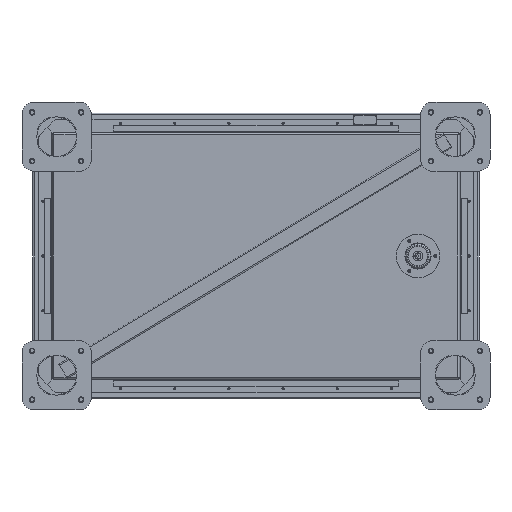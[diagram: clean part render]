
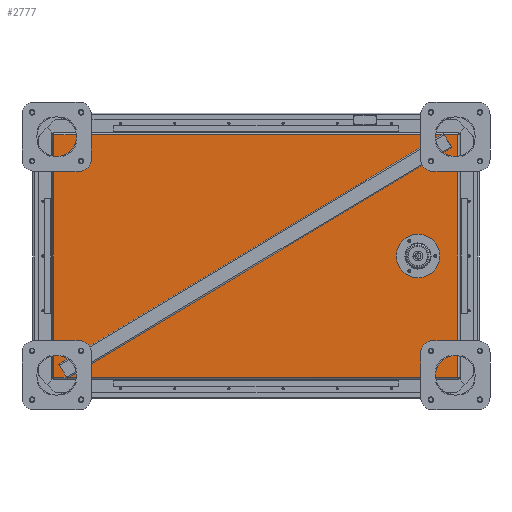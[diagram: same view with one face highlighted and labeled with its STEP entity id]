
A CAD part, front view. The second image highlights one B-rep face of the part: STEP entity #2777.
In plain terms, the highlighted planar face has unit normal (-0.018, -1, 0).
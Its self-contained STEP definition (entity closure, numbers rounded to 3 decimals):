
#1007 = CARTESIAN_POINT ( 'NONE',  ( 499.5, -72.438, 298. ) ) ;
#1154 = EDGE_CURVE ( 'NONE', #52131, #14662, #21369, .T. ) ;
#1330 = DIRECTION ( 'NONE',  ( 0.017, 1., 0. ) ) ;
#1735 = DIRECTION ( 'NONE',  ( -1., 0.017, 0. ) ) ;
#2006 = CARTESIAN_POINT ( 'NONE',  ( 378.648, -70.328, 36.806 ) ) ;
#2284 = DIRECTION ( 'NONE',  ( 1., -0.017, 0. ) ) ;
#2777 = ADVANCED_FACE ( 'NONE', ( #56940, #23771, #51280, #39299, #47020 ), #22942, .F. ) ;
#2921 = ORIENTED_EDGE ( 'NONE', *, *, #44946, .T. ) ;
#6382 = DIRECTION ( 'NONE',  ( 0.017, 1., 0. ) ) ;
#6402 = DIRECTION ( 'NONE',  ( -1., 0.017, 0. ) ) ;
#7268 = AXIS2_PLACEMENT_3D ( 'NONE', #12805, #12219, #17113 ) ;
#7459 = EDGE_CURVE ( 'NONE', #25887, #31728, #9165, .T. ) ;
#8321 = VERTEX_POINT ( 'NONE', #2006 ) ;
#8359 = ORIENTED_EDGE ( 'NONE', *, *, #7459, .T. ) ;
#9008 = ORIENTED_EDGE ( 'NONE', *, *, #38781, .T. ) ;
#9165 = CIRCLE ( 'NONE', #48757, 2.45 ) ;
#9910 = LINE ( 'NONE', #43478, #38721 ) ;
#9972 = CARTESIAN_POINT ( 'NONE',  ( 439.938, -71.398, 0. ) ) ;
#10170 = CIRCLE ( 'NONE', #13054, 30.25 ) ;
#10558 = ORIENTED_EDGE ( 'NONE', *, *, #25085, .F. ) ;
#11153 = VERTEX_POINT ( 'NONE', #32950 ) ;
#11319 = CIRCLE ( 'NONE', #34008, 2.45 ) ;
#11433 = CIRCLE ( 'NONE', #7268, 2.45 ) ;
#12219 = DIRECTION ( 'NONE',  ( 0.017, 1., 0. ) ) ;
#12568 = EDGE_CURVE ( 'NONE', #14662, #42501, #31926, .T. ) ;
#12569 = AXIS2_PLACEMENT_3D ( 'NONE', #27022, #45154, #30823 ) ;
#12805 = CARTESIAN_POINT ( 'NONE',  ( 376.198, -70.285, -36.806 ) ) ;
#12973 = EDGE_LOOP ( 'NONE', ( #31228, #32247 ) ) ;
#13054 = AXIS2_PLACEMENT_3D ( 'NONE', #41774, #32329, #50651 ) ;
#13323 = DIRECTION ( 'NONE',  ( 0.017, 1., 0. ) ) ;
#14123 = DIRECTION ( 'NONE',  ( 0.017, 1., 0. ) ) ;
#14223 = VERTEX_POINT ( 'NONE', #35583 ) ;
#14662 = VERTEX_POINT ( 'NONE', #36829 ) ;
#15871 = CIRCLE ( 'NONE', #40032, 2.45 ) ;
#16179 = DIRECTION ( 'NONE',  ( -1., 0.017, 0. ) ) ;
#17113 = DIRECTION ( 'NONE',  ( -1., 0.017, 0. ) ) ;
#17334 = DIRECTION ( 'NONE',  ( 0., 0., -1. ) ) ;
#21369 = LINE ( 'NONE', #54215, #31897 ) ;
#22528 = DIRECTION ( 'NONE',  ( -1., 0.017, 0. ) ) ;
#22942 = PLANE ( 'NONE',  #37160 ) ;
#22950 = EDGE_CURVE ( 'NONE', #35030, #8321, #15871, .T. ) ;
#23132 = DIRECTION ( 'NONE',  ( -1., 0.017, 0. ) ) ;
#23137 = ORIENTED_EDGE ( 'NONE', *, *, #56060, .F. ) ;
#23771 = FACE_BOUND ( 'NONE', #55553, .T. ) ;
#23963 = AXIS2_PLACEMENT_3D ( 'NONE', #52419, #24993, #16179 ) ;
#24025 = CARTESIAN_POINT ( 'NONE',  ( 373.748, -70.243, -36.806 ) ) ;
#24991 = VERTEX_POINT ( 'NONE', #24025 ) ;
#24993 = DIRECTION ( 'NONE',  ( 0.017, 1., 0. ) ) ;
#25001 = VERTEX_POINT ( 'NONE', #38593 ) ;
#25022 = CARTESIAN_POINT ( 'NONE',  ( -495.57, -55.069, 298. ) ) ;
#25085 = EDGE_CURVE ( 'NONE', #11153, #42501, #9910, .T. ) ;
#25280 = ORIENTED_EDGE ( 'NONE', *, *, #28825, .T. ) ;
#25887 = VERTEX_POINT ( 'NONE', #56995 ) ;
#26530 = VECTOR ( 'NONE', #33266, 1000. ) ;
#27022 = CARTESIAN_POINT ( 'NONE',  ( 376.198, -70.285, 36.806 ) ) ;
#28336 = DIRECTION ( 'NONE',  ( -1., 0.017, 0. ) ) ;
#28825 = EDGE_CURVE ( 'NONE', #25001, #14223, #10170, .T. ) ;
#30823 = DIRECTION ( 'NONE',  ( -1., 0.017, 0. ) ) ;
#31048 = CIRCLE ( 'NONE', #23963, 2.45 ) ;
#31228 = ORIENTED_EDGE ( 'NONE', *, *, #22950, .T. ) ;
#31728 = VERTEX_POINT ( 'NONE', #32488 ) ;
#31897 = VECTOR ( 'NONE', #40437, 1000. ) ;
#31926 = LINE ( 'NONE', #56732, #40402 ) ;
#32247 = ORIENTED_EDGE ( 'NONE', *, *, #46261, .T. ) ;
#32329 = DIRECTION ( 'NONE',  ( 0.017, 1., 0. ) ) ;
#32488 = CARTESIAN_POINT ( 'NONE',  ( 437.489, -71.355, 0. ) ) ;
#32950 = CARTESIAN_POINT ( 'NONE',  ( 495.43, -72.367, 298. ) ) ;
#33266 = DIRECTION ( 'NONE',  ( 1., -0.017, 0. ) ) ;
#34008 = AXIS2_PLACEMENT_3D ( 'NONE', #39698, #13323, #22528 ) ;
#34769 = ORIENTED_EDGE ( 'NONE', *, *, #47811, .T. ) ;
#34817 = CARTESIAN_POINT ( 'NONE',  ( 373.748, -70.243, 36.806 ) ) ;
#35030 = VERTEX_POINT ( 'NONE', #34817 ) ;
#35080 = CARTESIAN_POINT ( 'NONE',  ( 378.648, -70.328, -36.806 ) ) ;
#35583 = CARTESIAN_POINT ( 'NONE',  ( 427.69, -71.184, 0. ) ) ;
#36033 = EDGE_LOOP ( 'NONE', ( #42145, #10558, #23137, #36196 ) ) ;
#36196 = ORIENTED_EDGE ( 'NONE', *, *, #1154, .T. ) ;
#36829 = CARTESIAN_POINT ( 'NONE',  ( -495.57, -55.069, -298. ) ) ;
#37160 = AXIS2_PLACEMENT_3D ( 'NONE', #1007, #14123, #23132 ) ;
#37289 = ORIENTED_EDGE ( 'NONE', *, *, #47913, .T. ) ;
#37399 = CARTESIAN_POINT ( 'NONE',  ( 397.445, -70.656, 0. ) ) ;
#37934 = AXIS2_PLACEMENT_3D ( 'NONE', #37399, #41950, #6402 ) ;
#38464 = CIRCLE ( 'NONE', #12569, 2.45 ) ;
#38537 = LINE ( 'NONE', #42548, #26530 ) ;
#38593 = CARTESIAN_POINT ( 'NONE',  ( 367.199, -70.128, 0. ) ) ;
#38721 = VECTOR ( 'NONE', #17334, 1000. ) ;
#38781 = EDGE_CURVE ( 'NONE', #31728, #25887, #11319, .T. ) ;
#39299 = FACE_BOUND ( 'NONE', #43432, .T. ) ;
#39698 = CARTESIAN_POINT ( 'NONE',  ( 439.938, -71.398, 0. ) ) ;
#40032 = AXIS2_PLACEMENT_3D ( 'NONE', #41934, #6382, #28336 ) ;
#40402 = VECTOR ( 'NONE', #2284, 1000. ) ;
#40437 = DIRECTION ( 'NONE',  ( 0., 0., -1. ) ) ;
#40569 = EDGE_LOOP ( 'NONE', ( #9008, #8359 ) ) ;
#41774 = CARTESIAN_POINT ( 'NONE',  ( 397.445, -70.656, 0. ) ) ;
#41934 = CARTESIAN_POINT ( 'NONE',  ( 376.198, -70.285, 36.806 ) ) ;
#41950 = DIRECTION ( 'NONE',  ( 0.017, 1., 0. ) ) ;
#42145 = ORIENTED_EDGE ( 'NONE', *, *, #12568, .T. ) ;
#42501 = VERTEX_POINT ( 'NONE', #52481 ) ;
#42548 = CARTESIAN_POINT ( 'NONE',  ( 499.5, -72.438, 298. ) ) ;
#43432 = EDGE_LOOP ( 'NONE', ( #25280, #34769 ) ) ;
#43478 = CARTESIAN_POINT ( 'NONE',  ( 495.43, -72.367, 298. ) ) ;
#44946 = EDGE_CURVE ( 'NONE', #52199, #24991, #11433, .T. ) ;
#45154 = DIRECTION ( 'NONE',  ( 0.017, 1., 0. ) ) ;
#46261 = EDGE_CURVE ( 'NONE', #8321, #35030, #38464, .T. ) ;
#47020 = FACE_OUTER_BOUND ( 'NONE', #36033, .T. ) ;
#47811 = EDGE_CURVE ( 'NONE', #14223, #25001, #49402, .T. ) ;
#47913 = EDGE_CURVE ( 'NONE', #24991, #52199, #31048, .T. ) ;
#48757 = AXIS2_PLACEMENT_3D ( 'NONE', #9972, #1330, #1735 ) ;
#49402 = CIRCLE ( 'NONE', #37934, 30.25 ) ;
#50651 = DIRECTION ( 'NONE',  ( -1., 0.017, 0. ) ) ;
#51280 = FACE_BOUND ( 'NONE', #40569, .T. ) ;
#52131 = VERTEX_POINT ( 'NONE', #25022 ) ;
#52199 = VERTEX_POINT ( 'NONE', #35080 ) ;
#52419 = CARTESIAN_POINT ( 'NONE',  ( 376.198, -70.285, -36.806 ) ) ;
#52481 = CARTESIAN_POINT ( 'NONE',  ( 495.43, -72.367, -298. ) ) ;
#54215 = CARTESIAN_POINT ( 'NONE',  ( -495.57, -55.069, 298. ) ) ;
#55553 = EDGE_LOOP ( 'NONE', ( #37289, #2921 ) ) ;
#56060 = EDGE_CURVE ( 'NONE', #52131, #11153, #38537, .T. ) ;
#56732 = CARTESIAN_POINT ( 'NONE',  ( 499.5, -72.438, -298. ) ) ;
#56940 = FACE_BOUND ( 'NONE', #12973, .T. ) ;
#56995 = CARTESIAN_POINT ( 'NONE',  ( 442.388, -71.441, 0. ) ) ;
